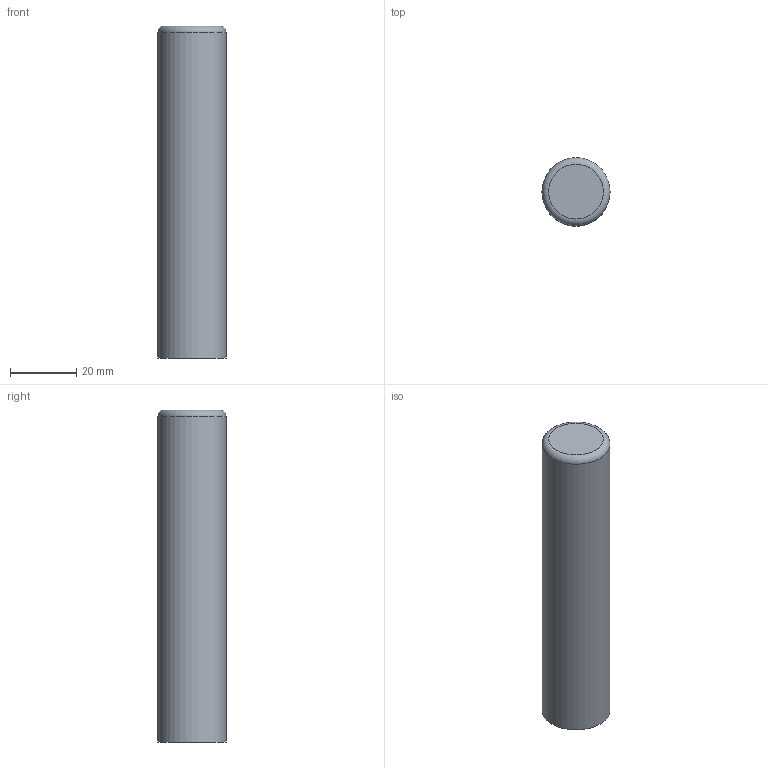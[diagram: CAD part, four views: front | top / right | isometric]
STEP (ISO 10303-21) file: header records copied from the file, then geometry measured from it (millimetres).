
FILE_DESCRIPTION( ('This file contains a STEP AP42 implementation' ,'as created by ZW3D STEP Interface translator.') ,'2;1' );
FILE_NAME( 'Nasada cylindryczna.stp' ,'26 4 2.111230', (''), ('ZWCAD Software Co.'), 'Version 1.0', 'ZW3D to STEP translator', '' );
FILE_SCHEMA(('AP242_MANAGED_MODEL_BASED_3D_ENGINEERING_MIM_LF { 1 0 10303 442 1 1 4 }'));
Length unit declared in the file: millimetre
Products named in the file (1): 0
Bounding box: 20.5 x 20.5 x 100 mm (x, y, z)
Volume: 17944.5 mm3; surface area: 11331.6 mm2
Topology: 1 solids, 1 shells, 6 faces, 8 edges, 5 vertices
Faces by surface type: plane 3, cylinder 2, torus 1
Full cylindrical faces by diameter (mm): 14 x1, 20.5 x1
Entity records: 156 total; most frequent: DIRECTION 28, CARTESIAN_POINT 20, ORIENTED_EDGE 16, AXIS2_PLACEMENT_3D 13, EDGE_CURVE 8, EDGE_LOOP 7, CIRCLE 6, FACE_OUTER_BOUND 6
